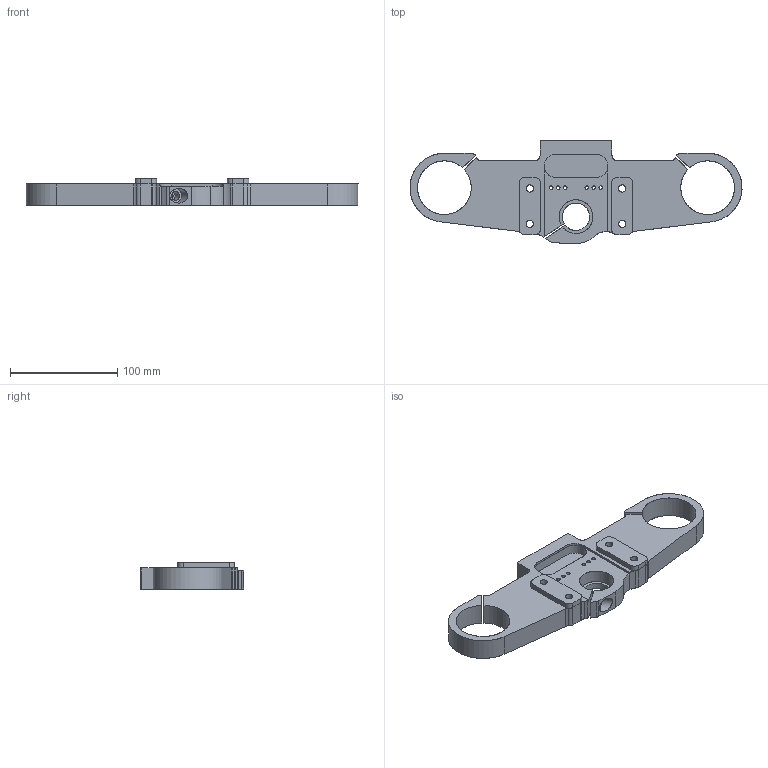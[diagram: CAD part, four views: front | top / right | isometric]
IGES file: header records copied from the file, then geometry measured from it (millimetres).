
Global section: file name: O:\DMF360\cad_cam\DIVERSE\stefan\tacho.igs; native system: Vector; preprocessor: Vector 12.2.043; date: 110321.140747; units: millimetre
Bounding box: 308.95 x 96 x 25 mm (x, y, z)
Surface area: 66092.1 mm2 (no closed solid volume)
Topology: 0 solids, 0 shells, 112 faces, 1144 edges, 1118 vertices
Faces by surface type: bspline 112
